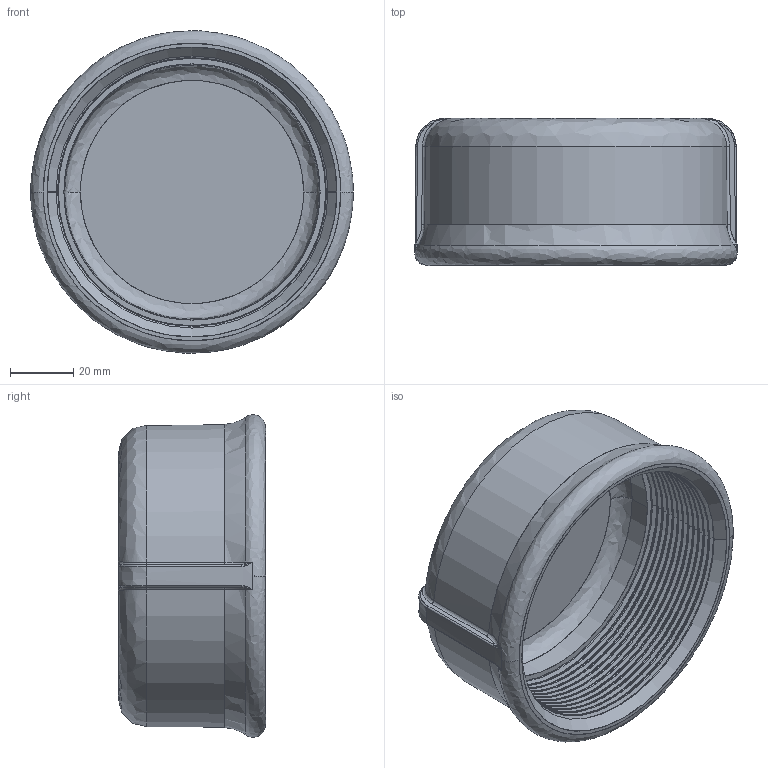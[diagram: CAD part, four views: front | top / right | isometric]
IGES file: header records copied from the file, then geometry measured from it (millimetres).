
Start section: SolidWorks IGES file using analytic representation for surfaces
Global section: file name: C:\Users\Joel Rosa\Desktop\Tubulação\12-42-XXX\12-42-012.IGS; native system: SolidWorks 2011; preprocessor: SolidWorks 2011; author: Joel Rosa; date: 131001.215853; units: millimetre
Bounding box: 102.4 x 46.7 x 102.39 mm (x, y, z)
Surface area: 43720.2 mm2 (no closed solid volume)
Topology: 0 solids, 0 shells, 271 faces, 2835 edges, 2833 vertices
Faces by surface type: bspline 211, revolution 60
